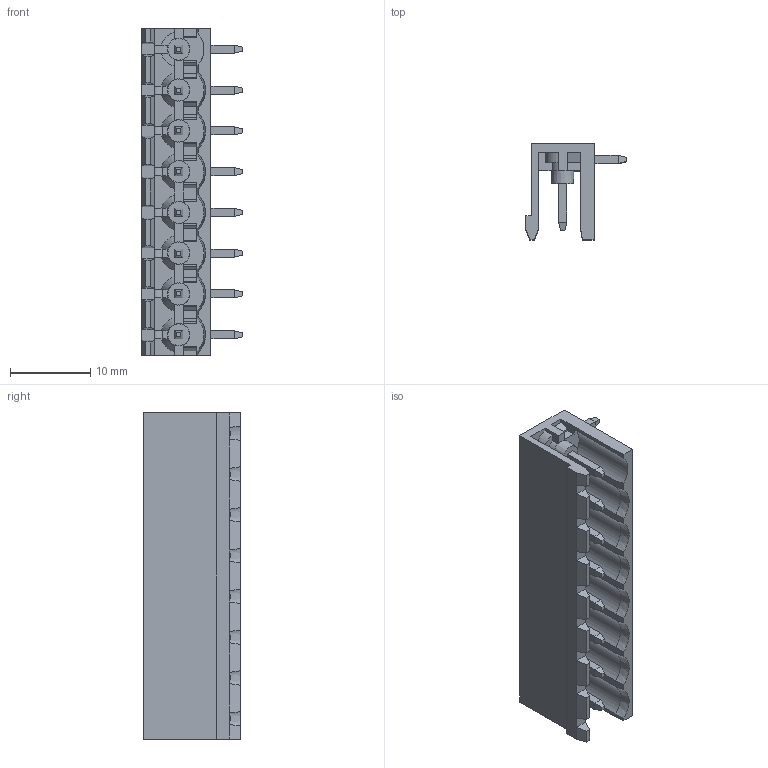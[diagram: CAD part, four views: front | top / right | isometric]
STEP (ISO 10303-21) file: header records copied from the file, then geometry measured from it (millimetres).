
FILE_DESCRIPTION (( 'STEP AP203' ), '1' );
FILE_NAME ('BR8MN1-08.STEP', '2020-03-18T03:21:09', ( '' ), ( '' ), 'SwSTEP 2.0', 'SolidWorks 2019', '' );
FILE_SCHEMA (( 'CONFIG_CONTROL_DESIGN' ));
Length unit declared in the file: millimetre
Products named in the file (1): BR8MN1-08
Bounding box: 12.5 x 12 x 40.64 mm (x, y, z)
Volume: 1553.7 mm3; surface area: 3501.5 mm2
Topology: 1 solids, 1 shells, 683 faces, 1782 edges, 1101 vertices
Faces by surface type: plane 589, cylinder 41, cone 37, sphere 16
Entity records: 20348 total; most frequent: CARTESIAN_POINT 3860, ORIENTED_EDGE 3500, DIRECTION 3205, EDGE_CURVE 1750, LINE 1501, VECTOR 1501, VERTEX_POINT 1085, AXIS2_PLACEMENT_3D 852
